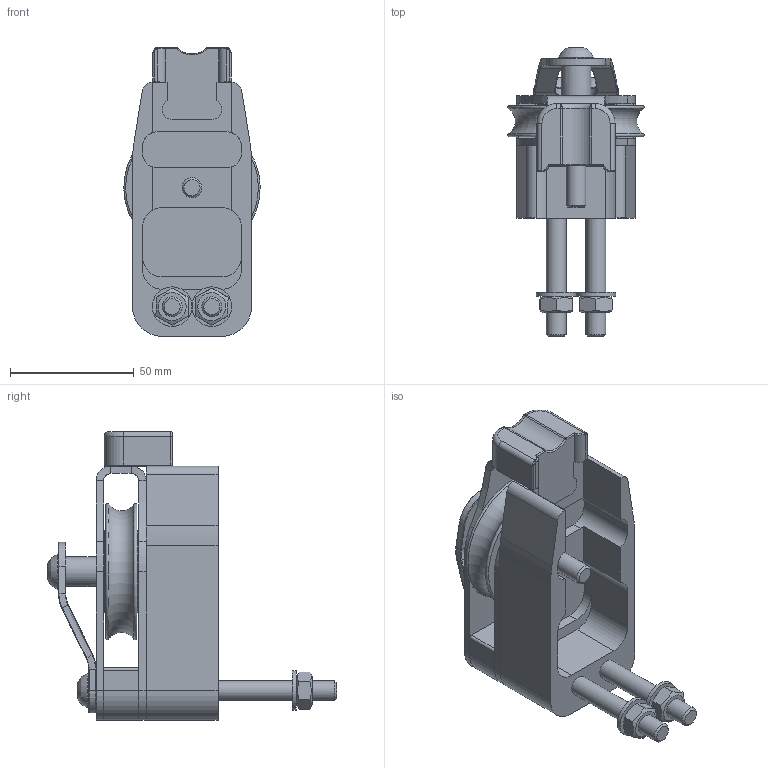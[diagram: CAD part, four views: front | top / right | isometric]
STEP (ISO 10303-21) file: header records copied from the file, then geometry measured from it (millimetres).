
FILE_DESCRIPTION(/* description */ (''),/* implementation_level */ '2;1');
FILE_NAME(/* name */ '\\SERVER2K12\Disegni CAD\Cad Library\3D - STP\Cars\4Race\4273-Z.stp',/* time_stamp */ '2019-02-04T11:31:33+01:00',/* author */ ('gianni'),/* organization */ (''),/* preprocessor_version */ 'ST-DEVELOPER v16.5',/* originating_system */ 'Autodesk Inventor 2017',/* authorisation */ '');
FILE_SCHEMA (('AUTOMOTIVE_DESIGN { 1 0 10303 214 3 1 1 }'));
Length unit declared in the file: millimetre
Products named in the file (1): 19020411
Bounding box: 54.99 x 116.61 x 116.5 mm (x, y, z)
Volume: 160620.3 mm3; surface area: 49134.9 mm2
Topology: 1 solids, 1 shells, 419 faces, 989 edges, 626 vertices
Faces by surface type: plane 109, cylinder 103, bspline 96, sphere 52, torus 43, cone 16
Full cylindrical faces by diameter (mm): 8 x5, 12 x3, 16 x2, 33 x2
Entity records: 21607 total; most frequent: CARTESIAN_POINT 12597, ORIENTED_EDGE 1878, DIRECTION 1766, EDGE_CURVE 938, AXIS2_PLACEMENT_3D 731, VERTEX_POINT 611, EDGE_LOOP 520, FACE_OUTER_BOUND 419
